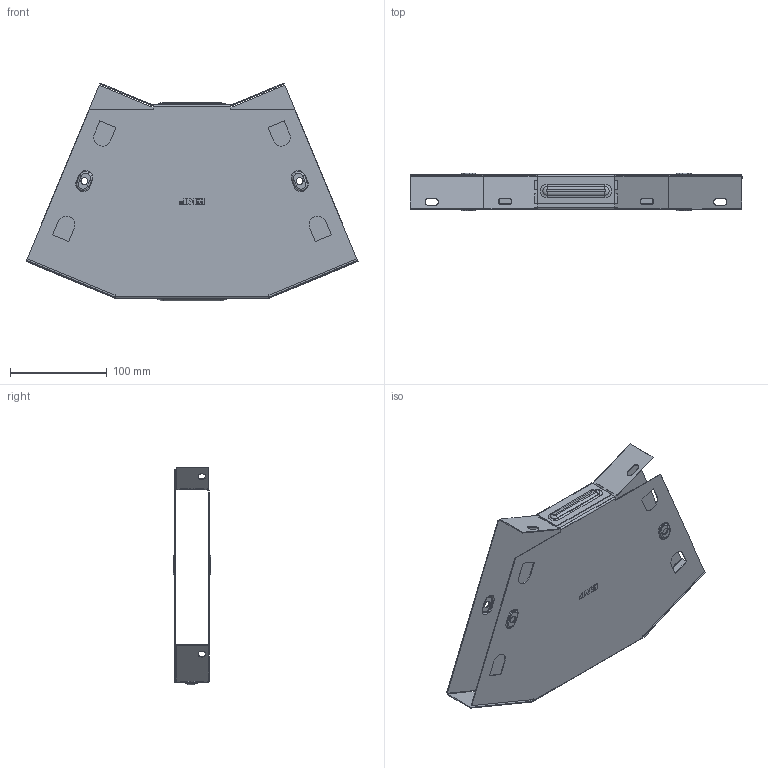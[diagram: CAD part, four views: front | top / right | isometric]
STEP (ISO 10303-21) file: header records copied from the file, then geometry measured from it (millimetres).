
FILE_DESCRIPTION (( 'STEP AP214' ), '1' );
FILE_NAME ('g4535200_捘.STEP', '2019-06-10T08:36:36', ( '砐錪賧瘔蠈錪 Windows' ), ( '' ), 'SwSTEP 2.0', 'SolidWorks 2018', '' );
FILE_SCHEMA (( 'AUTOMOTIVE_DESIGN' ));
Length unit declared in the file: millimetre
Products named in the file (1): g4535200_捘
Bounding box: 344.03 x 38.8 x 225.7 mm (x, y, z)
Volume: 105759.1 mm3; surface area: 267218.3 mm2
Topology: 2 solids, 2 shells, 486 faces, 1302 edges, 832 vertices
Faces by surface type: plane 270, cylinder 134, torus 64, bspline 18
Entity records: 16082 total; most frequent: CARTESIAN_POINT 3640, ORIENTED_EDGE 2604, DIRECTION 2568, EDGE_CURVE 1302, VECTOR 902, LINE 902, AXIS2_PLACEMENT_3D 833, VERTEX_POINT 832
